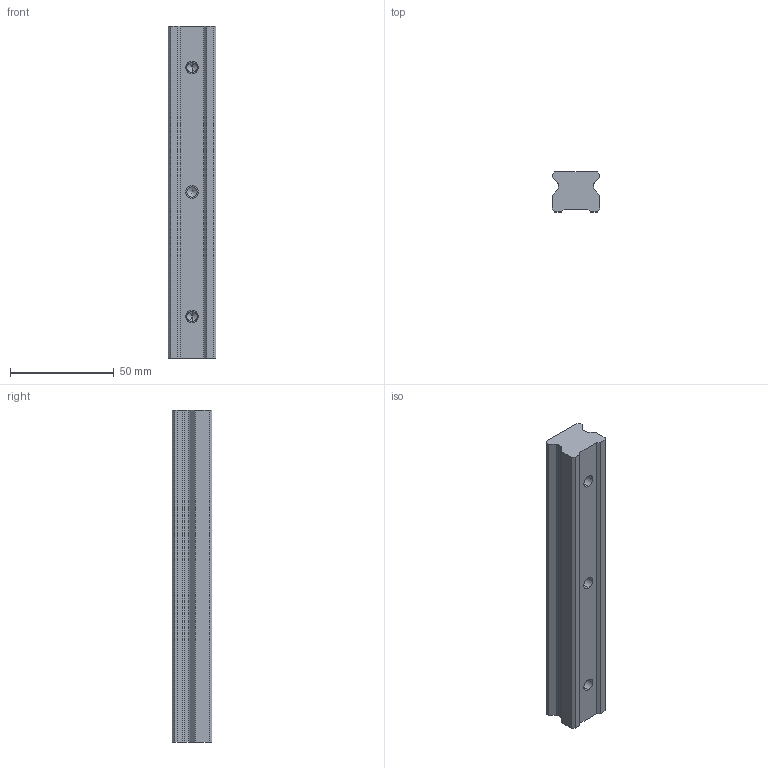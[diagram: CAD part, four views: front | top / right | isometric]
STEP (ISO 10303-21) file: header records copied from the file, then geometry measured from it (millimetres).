
FILE_DESCRIPTION (( 'STEP AP203' ), '1' );
FILE_NAME ('L1016.BRF25-0160.step', '2019-06-13T08:33:53', ( '' ), ( '' ), 'SwSTEP 2.0', 'SolidWorks 2017', '' );
FILE_SCHEMA (( 'CONFIG_CONTROL_DESIGN' ));
Length unit declared in the file: millimetre
Products named in the file (1): L1016.BRF25-0160
Bounding box: 23 x 19.2 x 160 mm (x, y, z)
Volume: 60960.1 mm3; surface area: 15546.2 mm2
Topology: 1 solids, 1 shells, 47 faces, 120 edges, 75 vertices
Faces by surface type: plane 25, cylinder 16, cone 6
Entity records: 1453 total; most frequent: DIRECTION 242, CARTESIAN_POINT 237, ORIENTED_EDGE 228, EDGE_CURVE 114, VECTOR 82, LINE 82, AXIS2_PLACEMENT_3D 80, VERTEX_POINT 75
